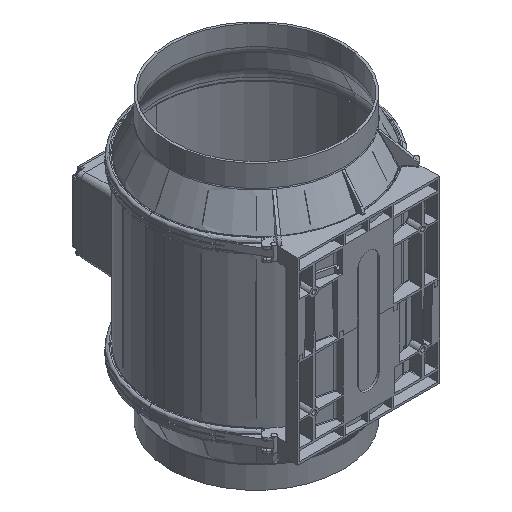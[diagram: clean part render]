
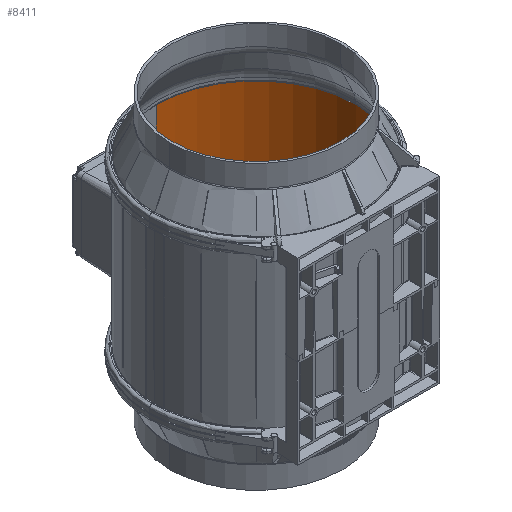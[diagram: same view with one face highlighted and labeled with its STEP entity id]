
A CAD part, isometric view. The second image highlights one B-rep face of the part: STEP entity #8411.
In plain terms, the highlighted cylindrical face has radius 114.755 mm (diameter 229.51 mm), a partial arc.
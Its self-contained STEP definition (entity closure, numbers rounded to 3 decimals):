
#2715 = ORIENTED_EDGE ( 'NONE', *, *, #35193, .F. ) ;
#2718 = ORIENTED_EDGE ( 'NONE', *, *, #35197, .T. ) ;
#2721 = ORIENTED_EDGE ( 'NONE', *, *, #35200, .F. ) ;
#2742 = ORIENTED_EDGE ( 'NONE', *, *, #35199, .F. ) ;
#6145 = VERTEX_POINT ( 'NONE', #44381 ) ;
#6390 = VERTEX_POINT ( 'NONE', #44727 ) ;
#6566 = VERTEX_POINT ( 'NONE', #44947 ) ;
#6997 = AXIS2_PLACEMENT_3D ( 'NONE', #14473, #14472, #14469 ) ;
#8411 = ADVANCED_FACE ( 'NONE', ( #17927 ), #17938, .F. ) ;
#14469 = DIRECTION ( 'NONE',  ( 0., -1., 0. ) ) ;
#14472 = DIRECTION ( 'NONE',  ( 0., 0., 1. ) ) ;
#14473 = CARTESIAN_POINT ( 'NONE',  ( 0., 0., 158.619 ) ) ;
#17927 = FACE_OUTER_BOUND ( 'NONE', #23639, .T. ) ;
#17938 = CYLINDRICAL_SURFACE ( 'NONE', #6997, 114.755 ) ;
#23639 = EDGE_LOOP ( 'NONE', ( #2715, #2742, #2718, #2721 ) ) ;
#35193 = EDGE_CURVE ( 'NONE', #6390, #66397, #57391, .T. ) ;
#35197 = EDGE_CURVE ( 'NONE', #6566, #6145, #57392, .T. ) ;
#35199 = EDGE_CURVE ( 'NONE', #6566, #6390, #57395, .T. ) ;
#35200 = EDGE_CURVE ( 'NONE', #66397, #6145, #57398, .T. ) ;
#35340 = DIRECTION ( 'NONE',  ( 0., 0., 1. ) ) ;
#35349 = DIRECTION ( 'NONE',  ( 0., 0., 1. ) ) ;
#35371 = CARTESIAN_POINT ( 'NONE',  ( 0., 114.755, 158.619 ) ) ;
#35381 = CARTESIAN_POINT ( 'NONE',  ( 0., -114.755, 158.619 ) ) ;
#35392 = CARTESIAN_POINT ( 'NONE',  ( 0., 0., -15.43 ) ) ;
#35393 = DIRECTION ( 'NONE',  ( 0., 0., 1. ) ) ;
#35395 = DIRECTION ( 'NONE',  ( 0., -1., 0. ) ) ;
#35398 = CARTESIAN_POINT ( 'NONE',  ( 0., 0., 92.9 ) ) ;
#35400 = DIRECTION ( 'NONE',  ( 0., 0., -1. ) ) ;
#35402 = DIRECTION ( 'NONE',  ( 1., 0., 0. ) ) ;
#36936 = CARTESIAN_POINT ( 'NONE',  ( 0., 114.755, 92.9 ) ) ;
#44381 = CARTESIAN_POINT ( 'NONE',  ( 0., -114.755, 92.9 ) ) ;
#44727 = CARTESIAN_POINT ( 'NONE',  ( 0., 114.755, -15.43 ) ) ;
#44947 = CARTESIAN_POINT ( 'NONE',  ( 0., -114.755, -15.43 ) ) ;
#45403 = AXIS2_PLACEMENT_3D ( 'NONE', #35392, #35393, #35395 ) ;
#45404 = AXIS2_PLACEMENT_3D ( 'NONE', #35398, #35400, #35402 ) ;
#57391 = LINE ( 'NONE', #35371, #57394 ) ;
#57392 = LINE ( 'NONE', #35381, #57397 ) ;
#57394 = VECTOR ( 'NONE', #35349, 1000. ) ;
#57395 = CIRCLE ( 'NONE', #45403, 114.755 ) ;
#57397 = VECTOR ( 'NONE', #35340, 1000. ) ;
#57398 = CIRCLE ( 'NONE', #45404, 114.755 ) ;
#66397 = VERTEX_POINT ( 'NONE', #36936 ) ;
